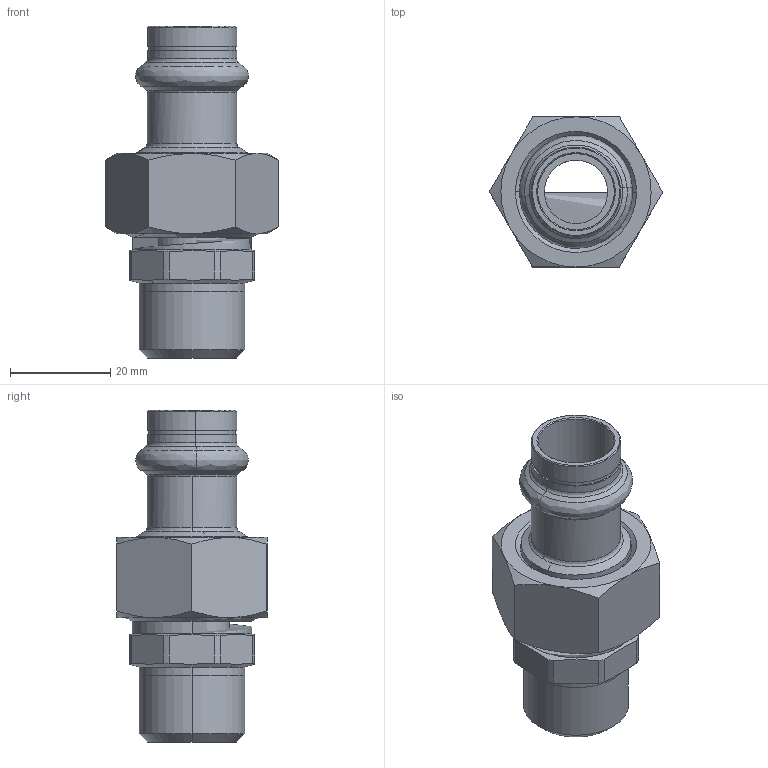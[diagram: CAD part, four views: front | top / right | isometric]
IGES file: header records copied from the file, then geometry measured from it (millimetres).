
Start section: Elysium IGES Interface
Global section: file name: F:\3d modellen sudo\S-Pr VP\SP6331GV\6331GVW1512.igs; native system: CoCreate Modeling 17.00A  17-Jun-2010; preprocessor: CoCreate IGES_3D V2.2; author: Unknown; organization: Unknown; date: 20130128.153917; units: millimetre
Bounding box: 34.64 x 30.05 x 66.3 mm (x, y, z)
Volume: 9481.1 mm3; surface area: 12065.1 mm2
Topology: 2 solids, 3 shells, 128 faces, 307 edges, 187 vertices
Faces by surface type: bspline 128
